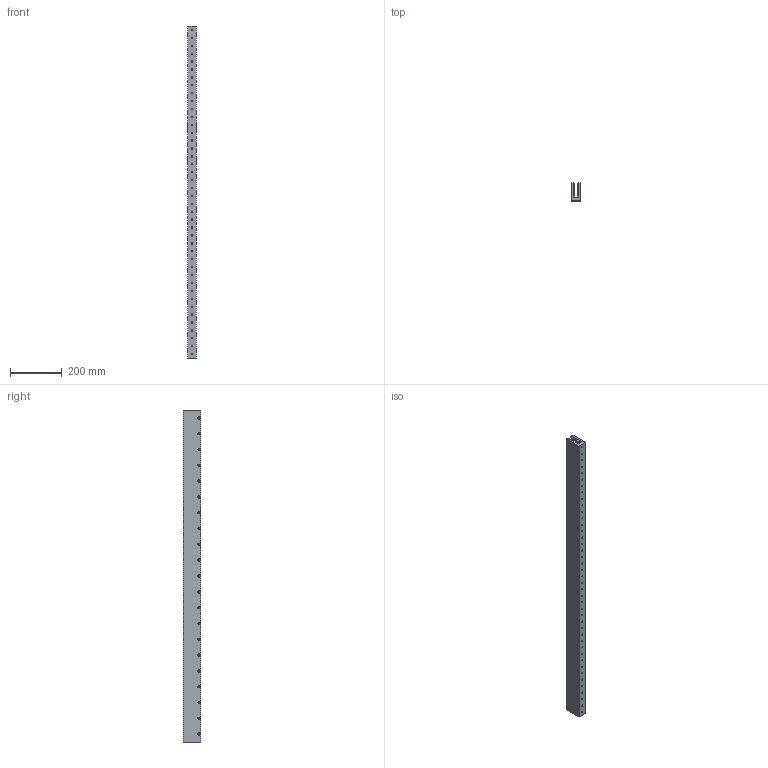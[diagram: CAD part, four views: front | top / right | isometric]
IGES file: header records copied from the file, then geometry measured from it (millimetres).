
Global section: file name: No Iges File Name specified; native system: Autodesk Inventor 2012; preprocessor: AutoDesk Inventor Iges Exporter R2012; author: je17857; date: 20120511.155333; units: inch
Bounding box: 34.29 x 67.31 x 1279.91 mm (x, y, z)
Volume: 1886730.4 mm3; surface area: 492476.3 mm2
Topology: 1 solids, 1 shells, 619 faces, 1431 edges, 961 vertices
Faces by surface type: plane 493, revolution 126
